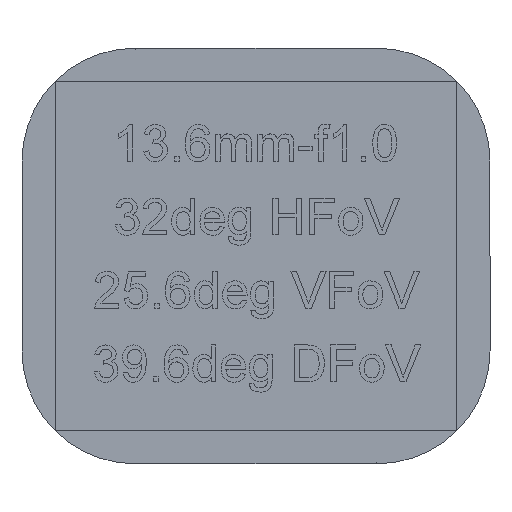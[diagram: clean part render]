
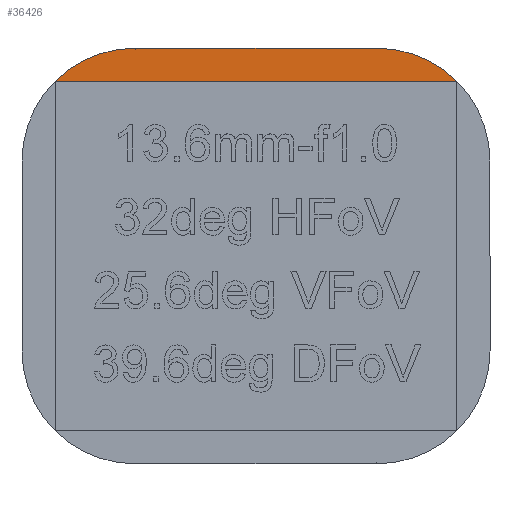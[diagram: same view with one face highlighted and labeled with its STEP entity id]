
A CAD part, top view. The second image highlights one B-rep face of the part: STEP entity #36426.
In plain terms, the highlighted planar face has unit normal (0, 0, 1).
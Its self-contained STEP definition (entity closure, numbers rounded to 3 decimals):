
#1648 = CARTESIAN_POINT ( 'NONE',  ( -13.675, 11.889, 45.07 ) ) ;
#1825 = DIRECTION ( 'NONE',  ( 0., 0., 1. ) ) ;
#2136 = EDGE_CURVE ( 'NONE', #78266, #171840, #89141, .T. ) ;
#9382 = VECTOR ( 'NONE', #68637, 1000. ) ;
#12549 = LINE ( 'NONE', #122826, #158785 ) ;
#14348 = DIRECTION ( 'NONE',  ( -1., 0., 0. ) ) ;
#14455 = CARTESIAN_POINT ( 'NONE',  ( 13.675, 11.889, 45.07 ) ) ;
#20732 = DIRECTION ( 'NONE',  ( -1., 0., 0. ) ) ;
#21116 = EDGE_CURVE ( 'NONE', #34666, #91916, #12549, .T. ) ;
#24361 = AXIS2_PLACEMENT_3D ( 'NONE', #137243, #1825, #63593 ) ;
#26290 = CARTESIAN_POINT ( 'NONE',  ( -8.251, 14.136, 45.07 ) ) ;
#28060 = CARTESIAN_POINT ( 'NONE',  ( 8.251, 14.136, 45.07 ) ) ;
#28775 = PLANE ( 'NONE',  #124667 ) ;
#34512 = AXIS2_PLACEMENT_3D ( 'NONE', #173343, #158046, #14348 ) ;
#34666 = VERTEX_POINT ( 'NONE', #28060 ) ;
#36426 = ADVANCED_FACE ( 'NONE', ( #43724 ), #28775, .F. ) ;
#43724 = FACE_OUTER_BOUND ( 'NONE', #158236, .T. ) ;
#53402 = CARTESIAN_POINT ( 'NONE',  ( -13.675, 11.889, 45.07 ) ) ;
#63161 = ORIENTED_EDGE ( 'NONE', *, *, #107621, .T. ) ;
#63593 = DIRECTION ( 'NONE',  ( -1., 0., 0. ) ) ;
#68637 = DIRECTION ( 'NONE',  ( -1., 0., 0. ) ) ;
#78266 = VERTEX_POINT ( 'NONE', #14455 ) ;
#89141 = LINE ( 'NONE', #53402, #9382 ) ;
#91916 = VERTEX_POINT ( 'NONE', #26290 ) ;
#96995 = EDGE_CURVE ( 'NONE', #78266, #34666, #165046, .T. ) ;
#107621 = EDGE_CURVE ( 'NONE', #91916, #171840, #185340, .T. ) ;
#122826 = CARTESIAN_POINT ( 'NONE',  ( -8.251, 14.136, 45.07 ) ) ;
#124667 = AXIS2_PLACEMENT_3D ( 'NONE', #159737, #131015, #161015 ) ;
#129269 = ORIENTED_EDGE ( 'NONE', *, *, #2136, .F. ) ;
#131015 = DIRECTION ( 'NONE',  ( 0., 0., -1. ) ) ;
#136684 = ORIENTED_EDGE ( 'NONE', *, *, #96995, .T. ) ;
#137243 = CARTESIAN_POINT ( 'NONE',  ( -8.251, 6.464, 45.07 ) ) ;
#158046 = DIRECTION ( 'NONE',  ( 0., 0., 1. ) ) ;
#158236 = EDGE_LOOP ( 'NONE', ( #129269, #136684, #162328, #63161 ) ) ;
#158785 = VECTOR ( 'NONE', #20732, 1000. ) ;
#159737 = CARTESIAN_POINT ( 'NONE',  ( 8.251, 6.464, 45.07 ) ) ;
#161015 = DIRECTION ( 'NONE',  ( -1., 0., 0. ) ) ;
#162328 = ORIENTED_EDGE ( 'NONE', *, *, #21116, .T. ) ;
#165046 = CIRCLE ( 'NONE', #34512, 7.672 ) ;
#171840 = VERTEX_POINT ( 'NONE', #1648 ) ;
#173343 = CARTESIAN_POINT ( 'NONE',  ( 8.251, 6.464, 45.07 ) ) ;
#185340 = CIRCLE ( 'NONE', #24361, 7.672 ) ;
